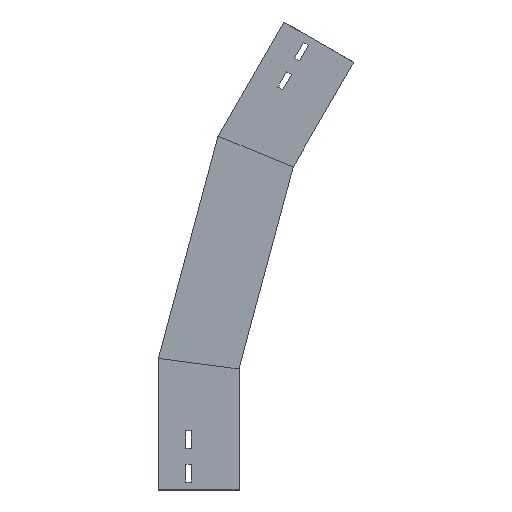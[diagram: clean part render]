
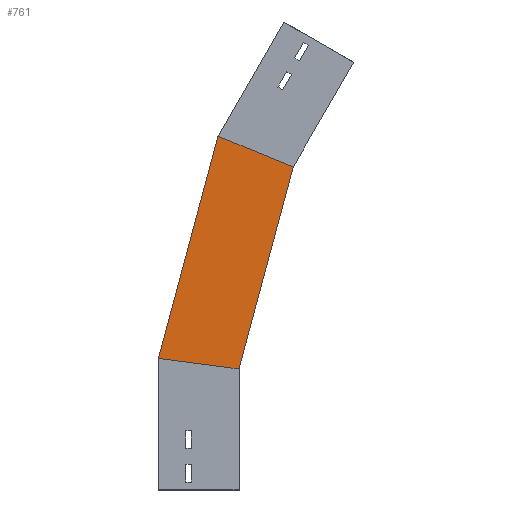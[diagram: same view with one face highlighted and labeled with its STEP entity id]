
A CAD part, left-side view. The second image highlights one B-rep face of the part: STEP entity #761.
In plain terms, the highlighted planar face has unit normal (-1, 0, 0) as drawn and (1, 0, 0) by its records, which use the part's own axes.
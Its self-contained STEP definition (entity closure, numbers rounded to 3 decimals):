
#43 = VECTOR ( 'NONE', #1020, 1000. ) ;
#137 = DIRECTION ( 'NONE',  ( 0., 0., -1. ) ) ;
#166 = VERTEX_POINT ( 'NONE', #1239 ) ;
#177 = LINE ( 'NONE', #539, #812 ) ;
#188 = EDGE_CURVE ( 'NONE', #880, #292, #1365, .T. ) ;
#189 = PLANE ( 'NONE',  #1401 ) ;
#239 = VECTOR ( 'NONE', #674, 1000. ) ;
#251 = VERTEX_POINT ( 'NONE', #818 ) ;
#292 = VERTEX_POINT ( 'NONE', #1376 ) ;
#304 = VECTOR ( 'NONE', #426, 1000. ) ;
#426 = DIRECTION ( 'NONE',  ( 0., -0.991, -0.131 ) ) ;
#479 = ORIENTED_EDGE ( 'NONE', *, *, #499, .F. ) ;
#499 = EDGE_CURVE ( 'NONE', #166, #880, #646, .T. ) ;
#539 = CARTESIAN_POINT ( 'NONE',  ( 0., 100.367, 161.797 ) ) ;
#598 = LINE ( 'NONE', #1176, #43 ) ;
#616 = EDGE_CURVE ( 'NONE', #166, #251, #177, .T. ) ;
#646 = LINE ( 'NONE', #882, #304 ) ;
#673 = ORIENTED_EDGE ( 'NONE', *, *, #616, .T. ) ;
#674 = DIRECTION ( 'NONE',  ( 0., -0.259, 0.966 ) ) ;
#761 = ADVANCED_FACE ( 'NONE', ( #773 ), #189, .T. ) ;
#768 = EDGE_LOOP ( 'NONE', ( #673, #1060, #1299, #479 ) ) ;
#773 = FACE_OUTER_BOUND ( 'NONE', #768, .T. ) ;
#812 = VECTOR ( 'NONE', #997, 1000. ) ;
#818 = CARTESIAN_POINT ( 'NONE',  ( 0., 26.151, 438.773 ) ) ;
#880 = VERTEX_POINT ( 'NONE', #900 ) ;
#882 = CARTESIAN_POINT ( 'NONE',  ( 0., -19.411, 147.444 ) ) ;
#900 = CARTESIAN_POINT ( 'NONE',  ( 0., 0., 150. ) ) ;
#997 = DIRECTION ( 'NONE',  ( 0., -0.259, 0.966 ) ) ;
#1020 = DIRECTION ( 'NONE',  ( 0., -0.924, -0.383 ) ) ;
#1039 = CARTESIAN_POINT ( 'NONE',  ( 0., 3.774, 135.915 ) ) ;
#1060 = ORIENTED_EDGE ( 'NONE', *, *, #1408, .T. ) ;
#1151 = CARTESIAN_POINT ( 'NONE',  ( 0., 3.774, 135.915 ) ) ;
#1176 = CARTESIAN_POINT ( 'NONE',  ( 0., -100.025, 386.509 ) ) ;
#1180 = DIRECTION ( 'NONE',  ( 1., 0., 0. ) ) ;
#1239 = CARTESIAN_POINT ( 'NONE',  ( 0., 100., 163.165 ) ) ;
#1299 = ORIENTED_EDGE ( 'NONE', *, *, #188, .F. ) ;
#1365 = LINE ( 'NONE', #1151, #239 ) ;
#1376 = CARTESIAN_POINT ( 'NONE',  ( 0., -67.034, 400.175 ) ) ;
#1401 = AXIS2_PLACEMENT_3D ( 'NONE', #1039, #1180, #137 ) ;
#1408 = EDGE_CURVE ( 'NONE', #251, #292, #598, .T. ) ;
